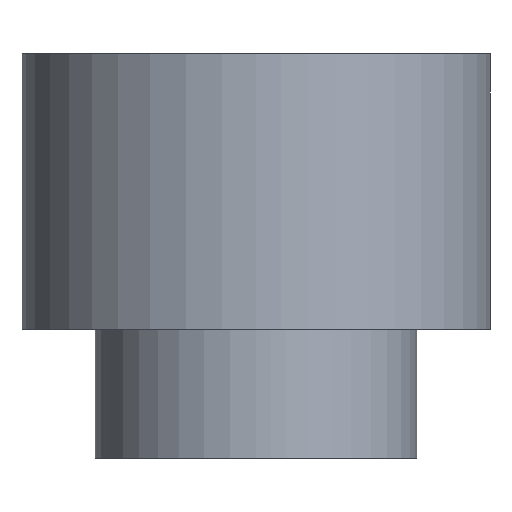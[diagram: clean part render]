
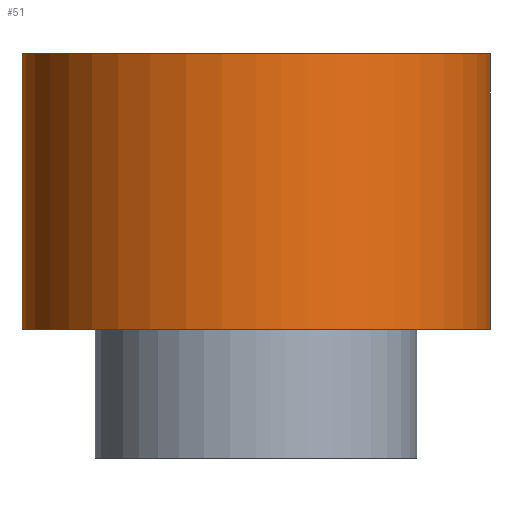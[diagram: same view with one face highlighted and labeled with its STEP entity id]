
A CAD part, left-side view. The second image highlights one B-rep face of the part: STEP entity #51.
In plain terms, the highlighted free-form (B-spline) face has degree [2, 1] with [7, 2] control points.
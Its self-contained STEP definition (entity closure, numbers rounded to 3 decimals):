
#35 = EDGE_CURVE('',#36,#36,#38,.T.);
#36 = VERTEX_POINT('',#37);
#37 = CARTESIAN_POINT('',(-2.55,0.,3.));
#38 = ( BOUNDED_CURVE() B_SPLINE_CURVE(2,(#39,#40,#41,#42,#43,#44,#45),
.UNSPECIFIED.,.T.,.F.) B_SPLINE_CURVE_WITH_KNOTS((1,2,2,2,2,1),(
    -2.094,0.,2.094,4.189,6.283,
8.378),.UNSPECIFIED.) CURVE() GEOMETRIC_REPRESENTATION_ITEM() 
RATIONAL_B_SPLINE_CURVE((1.,0.5,1.,0.5,1.,0.5,1.)) REPRESENTATION_ITEM(
  '') );
#39 = CARTESIAN_POINT('',(-2.55,0.,3.));
#40 = CARTESIAN_POINT('',(-2.55,4.417,3.));
#41 = CARTESIAN_POINT('',(1.275,2.208,3.));
#42 = CARTESIAN_POINT('',(5.1,0.,3.));
#43 = CARTESIAN_POINT('',(1.275,-2.208,3.));
#44 = CARTESIAN_POINT('',(-2.55,-4.417,3.));
#45 = CARTESIAN_POINT('',(-2.55,0.,3.));
#51 = ADVANCED_FACE('',(#52),#73,.T.);
#52 = FACE_BOUND('',#53,.T.);
#53 = EDGE_LOOP('',(#54,#55,#62,#72));
#54 = ORIENTED_EDGE('',*,*,#35,.T.);
#55 = ORIENTED_EDGE('',*,*,#56,.F.);
#56 = EDGE_CURVE('',#57,#36,#59,.T.);
#57 = VERTEX_POINT('',#58);
#58 = CARTESIAN_POINT('',(-2.55,0.,0.));
#59 = B_SPLINE_CURVE_WITH_KNOTS('',1,(#60,#61),.UNSPECIFIED.,.F.,.F.,(2,
    2),(-5.,-2.),.PIECEWISE_BEZIER_KNOTS.);
#60 = CARTESIAN_POINT('',(-2.55,0.,0.));
#61 = CARTESIAN_POINT('',(-2.55,0.,3.));
#62 = ORIENTED_EDGE('',*,*,#63,.F.);
#63 = EDGE_CURVE('',#57,#57,#64,.T.);
#64 = ( BOUNDED_CURVE() B_SPLINE_CURVE(2,(#65,#66,#67,#68,#69,#70,#71),
.UNSPECIFIED.,.T.,.F.) B_SPLINE_CURVE_WITH_KNOTS((1,2,2,2,2,1),(
    -2.094,0.,2.094,4.189,6.283,
8.378),.UNSPECIFIED.) CURVE() GEOMETRIC_REPRESENTATION_ITEM() 
RATIONAL_B_SPLINE_CURVE((1.,0.5,1.,0.5,1.,0.5,1.)) REPRESENTATION_ITEM(
  '') );
#65 = CARTESIAN_POINT('',(-2.55,0.,0.));
#66 = CARTESIAN_POINT('',(-2.55,4.417,0.));
#67 = CARTESIAN_POINT('',(1.275,2.208,0.));
#68 = CARTESIAN_POINT('',(5.1,0.,0.));
#69 = CARTESIAN_POINT('',(1.275,-2.208,0.));
#70 = CARTESIAN_POINT('',(-2.55,-4.417,0.));
#71 = CARTESIAN_POINT('',(-2.55,0.,0.));
#72 = ORIENTED_EDGE('',*,*,#56,.T.);
#73 = ( BOUNDED_SURFACE() B_SPLINE_SURFACE(2,1,(
    (#74,#75)
    ,(#76,#77)
    ,(#78,#79)
    ,(#80,#81)
    ,(#82,#83)
    ,(#84,#85)
,(#86,#87
    )),.UNSPECIFIED.,.T.,.F.,.F.) B_SPLINE_SURFACE_WITH_KNOTS((1,2,2,2,2
    ,1),(2,2),(-2.094,0.,2.094,4.189,
    6.283,8.378),(-5.,-2.),.UNSPECIFIED.) 
GEOMETRIC_REPRESENTATION_ITEM() RATIONAL_B_SPLINE_SURFACE((
    (1.,1.)
    ,(0.5,0.5)
    ,(1.,1.)
    ,(0.5,0.5)
    ,(1.,1.)
    ,(0.5,0.5)
,(1.,1.))) REPRESENTATION_ITEM('') SURFACE() );
#74 = CARTESIAN_POINT('',(-2.55,0.,0.));
#75 = CARTESIAN_POINT('',(-2.55,0.,3.));
#76 = CARTESIAN_POINT('',(-2.55,-4.417,0.));
#77 = CARTESIAN_POINT('',(-2.55,-4.417,3.));
#78 = CARTESIAN_POINT('',(1.275,-2.208,0.));
#79 = CARTESIAN_POINT('',(1.275,-2.208,3.));
#80 = CARTESIAN_POINT('',(5.1,0.,0.));
#81 = CARTESIAN_POINT('',(5.1,0.,3.));
#82 = CARTESIAN_POINT('',(1.275,2.208,0.));
#83 = CARTESIAN_POINT('',(1.275,2.208,3.));
#84 = CARTESIAN_POINT('',(-2.55,4.417,0.));
#85 = CARTESIAN_POINT('',(-2.55,4.417,3.));
#86 = CARTESIAN_POINT('',(-2.55,0.,0.));
#87 = CARTESIAN_POINT('',(-2.55,0.,3.));
